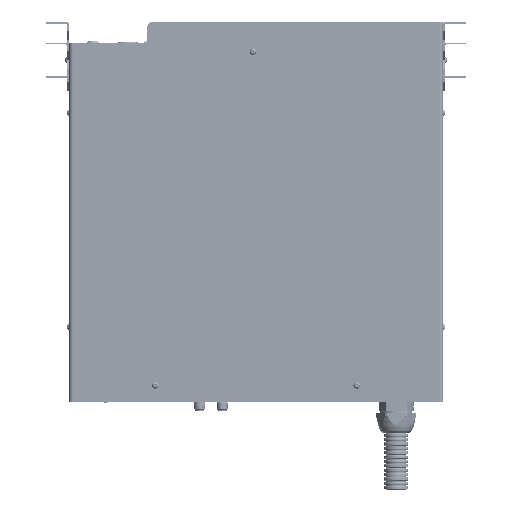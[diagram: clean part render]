
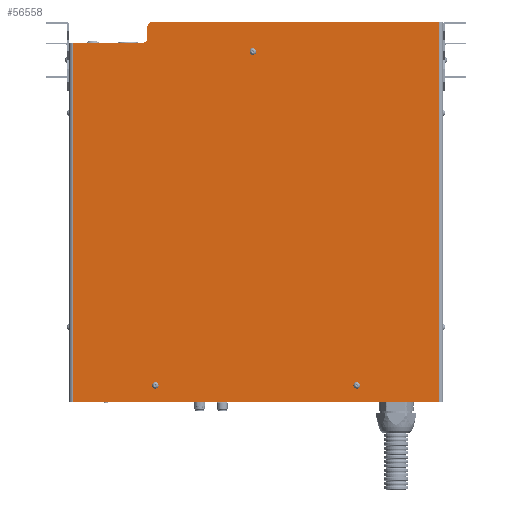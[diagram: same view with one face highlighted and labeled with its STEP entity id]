
A CAD part, top view. The second image highlights one B-rep face of the part: STEP entity #56558.
In plain terms, the highlighted planar face has unit normal (0, 0, 1).
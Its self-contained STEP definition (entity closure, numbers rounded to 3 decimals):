
#42850=FACE_BOUND('',#76109,.T.);
#42851=FACE_BOUND('',#76110,.T.);
#42852=FACE_BOUND('',#76111,.T.);
#42853=FACE_BOUND('',#76112,.T.);
#47474=CIRCLE('',#175049,3.8);
#47494=CIRCLE('',#175100,3.8);
#47496=CIRCLE('',#175104,3.8);
#49523=CIRCLE('',#181373,5.);
#49525=CIRCLE('',#181376,5.);
#56558=ADVANCED_FACE('',(#42850,#42851,#42852,#42853),#61517,.F.);
#61517=PLANE('',#181396);
#76109=EDGE_LOOP('',(#107701));
#76110=EDGE_LOOP('',(#107702));
#76111=EDGE_LOOP('',(#107703));
#76112=EDGE_LOOP('',(#107704,#107705,#107706,#107707,#107708,#107709,#107710,
#107711));
#107701=ORIENTED_EDGE('',*,*,#127639,.T.);
#107702=ORIENTED_EDGE('',*,*,#127713,.T.);
#107703=ORIENTED_EDGE('',*,*,#127715,.T.);
#107704=ORIENTED_EDGE('',*,*,#139171,.F.);
#107705=ORIENTED_EDGE('',*,*,#139164,.T.);
#107706=ORIENTED_EDGE('',*,*,#139180,.T.);
#107707=ORIENTED_EDGE('',*,*,#139168,.T.);
#107708=ORIENTED_EDGE('',*,*,#139200,.F.);
#107709=ORIENTED_EDGE('',*,*,#139185,.T.);
#107710=ORIENTED_EDGE('',*,*,#139201,.F.);
#107711=ORIENTED_EDGE('',*,*,#139195,.T.);
#115024=VERTEX_POINT('',#226349);
#115076=VERTEX_POINT('',#226506);
#115078=VERTEX_POINT('',#226512);
#122490=VERTEX_POINT('',#261049);
#122491=VERTEX_POINT('',#261051);
#122494=VERTEX_POINT('',#261058);
#122495=VERTEX_POINT('',#261060);
#122497=VERTEX_POINT('',#261066);
#122506=VERTEX_POINT('',#261093);
#122507=VERTEX_POINT('',#261094);
#122514=VERTEX_POINT('',#261114);
#127639=EDGE_CURVE('',#115024,#115024,#47474,.T.);
#127713=EDGE_CURVE('',#115076,#115076,#47494,.T.);
#127715=EDGE_CURVE('',#115078,#115078,#47496,.T.);
#139164=EDGE_CURVE('',#122491,#122490,#49523,.T.);
#139168=EDGE_CURVE('',#122495,#122494,#49525,.T.);
#139171=EDGE_CURVE('',#122491,#122497,#151795,.T.);
#139180=EDGE_CURVE('',#122490,#122495,#151802,.T.);
#139185=EDGE_CURVE('',#122506,#122507,#151805,.T.);
#139195=EDGE_CURVE('',#122514,#122497,#151811,.T.);
#139200=EDGE_CURVE('',#122506,#122494,#151815,.T.);
#139201=EDGE_CURVE('',#122514,#122507,#151816,.T.);
#151795=LINE('',#261065,#163543);
#151802=LINE('',#261081,#163550);
#151805=LINE('',#261092,#163553);
#151811=LINE('',#261113,#163559);
#151815=LINE('',#261122,#163563);
#151816=LINE('',#261123,#163564);
#163543=VECTOR('',#213417,1.);
#163550=VECTOR('',#213432,1.);
#163553=VECTOR('',#213443,1.);
#163559=VECTOR('',#213463,1.);
#163563=VECTOR('',#213473,1.);
#163564=VECTOR('',#213474,1.);
#175049=AXIS2_PLACEMENT_3D('',#226348,#192145,#192146);
#175100=AXIS2_PLACEMENT_3D('',#226505,#192301,#192302);
#175104=AXIS2_PLACEMENT_3D('',#226511,#192309,#192310);
#181373=AXIS2_PLACEMENT_3D('',#261050,#213403,#213404);
#181376=AXIS2_PLACEMENT_3D('',#261059,#213411,#213412);
#181396=AXIS2_PLACEMENT_3D('',#261124,#213475,#213476);
#192145=DIRECTION('',(0.,0.,-1.));
#192146=DIRECTION('',(-1.,0.,0.));
#192301=DIRECTION('',(0.,0.,-1.));
#192302=DIRECTION('',(-1.,0.,0.));
#192309=DIRECTION('',(0.,0.,-1.));
#192310=DIRECTION('',(-1.,0.,0.));
#213403=DIRECTION('',(0.,0.,1.));
#213404=DIRECTION('',(1.,0.,0.));
#213411=DIRECTION('',(0.,0.,-1.));
#213412=DIRECTION('',(1.,0.,0.));
#213417=DIRECTION('',(1.,0.,0.));
#213432=DIRECTION('',(0.,-1.,0.));
#213443=DIRECTION('',(0.,-1.,0.));
#213463=DIRECTION('',(0.,1.,0.));
#213473=DIRECTION('',(1.,0.,0.));
#213474=DIRECTION('',(-1.,0.,0.));
#213475=DIRECTION('',(0.,0.,-1.));
#213476=DIRECTION('',(1.,0.,0.));
#226348=CARTESIAN_POINT('',(212.832,399.203,121.135));
#226349=CARTESIAN_POINT('',(209.032,399.203,121.135));
#226505=CARTESIAN_POINT('',(331.432,17.903,121.135));
#226506=CARTESIAN_POINT('',(327.632,17.903,121.135));
#226511=CARTESIAN_POINT('',(101.432,17.903,121.135));
#226512=CARTESIAN_POINT('',(97.632,17.903,121.135));
#261049=CARTESIAN_POINT('',(92.432,427.903,121.135));
#261050=CARTESIAN_POINT('',(97.432,427.903,121.135));
#261051=CARTESIAN_POINT('',(97.432,432.903,121.135));
#261058=CARTESIAN_POINT('',(87.432,409.403,121.135));
#261059=CARTESIAN_POINT('',(87.432,414.403,121.135));
#261060=CARTESIAN_POINT('',(92.432,414.403,121.135));
#261065=CARTESIAN_POINT('',(92.432,432.903,121.135));
#261066=CARTESIAN_POINT('',(425.432,432.903,121.135));
#261081=CARTESIAN_POINT('',(92.432,432.903,121.135));
#261092=CARTESIAN_POINT('',(7.432,409.403,121.135));
#261093=CARTESIAN_POINT('',(7.432,409.403,121.135));
#261094=CARTESIAN_POINT('',(7.432,-0.597,121.135));
#261113=CARTESIAN_POINT('',(425.432,-0.597,121.135));
#261114=CARTESIAN_POINT('',(425.432,-0.597,121.135));
#261122=CARTESIAN_POINT('',(2.932,409.403,121.135));
#261123=CARTESIAN_POINT('',(429.932,-0.597,121.135));
#261124=CARTESIAN_POINT('',(2.932,409.403,121.135));
